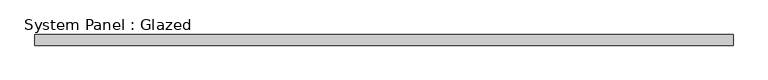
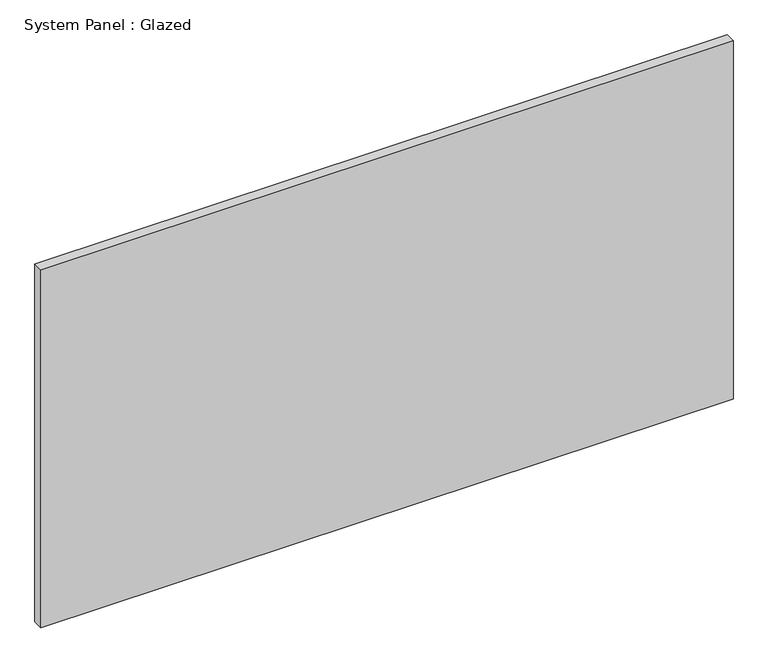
"""IFC4 building model written with IfcOpenShell, lengths in millimetres: plate geometry, System Panel : Glazed."""

from ifc_helpers import new_model, si_unit, origin, origin_with_axes, place, context, project, spatial, polyline, outline, extrude, source, transform, mapped, element, save


def system_panel_glazed_ea747cd8(model_context):
    return source(origin(), model_context, "Body", "SweptSolid", [
        extrude(outline(polyline([(835.4173679, 19.05), (-835.4173679, 19.05), (-835.4173679, 44.45), (835.4173679, 44.45), (835.4173679, 19.05)])), origin_with_axes(), (0.0, 0.0, 1.0), 914.4),
    ])


if __name__ == "__main__":
    model = new_model("IFC4")
    model_context = context("Model", 3, world=origin())
    ifc_project = project(units=[si_unit("LENGTHUNIT", "METRE", prefix="MILLI")], contexts=[model_context])
    site = spatial("IfcSite", under=ifc_project)
    building = spatial("IfcBuilding", under=site)
    placement = place(None, origin())
    system_panel_glazed_shape = system_panel_glazed_ea747cd8(model_context)
    element("IfcPlate", 1, ObjectType="System Panel : Glazed", at=placement, inside=building, context=model_context, shape_type="MappedRepresentation", body=[
        mapped(system_panel_glazed_shape, transform((0.0, 0.0, 0.0), x_axis=(1.0, 0.0, 0.0), y_axis=(0.0, 1.0, 0.0), z_axis=(0.0, 0.0, 1.0))),
    ])
    save(model, "model.ifc")
